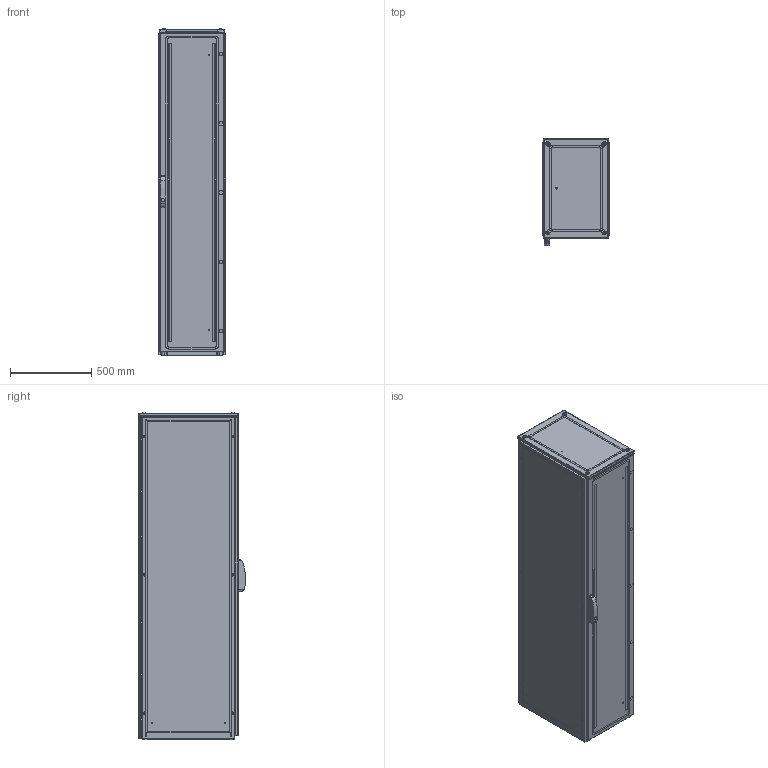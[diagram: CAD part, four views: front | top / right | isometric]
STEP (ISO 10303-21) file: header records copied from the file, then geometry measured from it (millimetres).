
FILE_DESCRIPTION(/* description */ ('STEP AP214'),/* implementation_level */ '2;1');
FILE_NAME(/* name */ 'ENUX042006PR-LOD350',/* time_stamp */ '2025-08-04T14:26:46+02:00',/* author */ ('License CC BY-ND 4.0'),/* organization */ ('CADENAS'),/* preprocessor_version */ 'ST-DEVELOPER v19.3',/* originating_system */ 'PARTsolutions',/* authorisation */ ' ');
FILE_SCHEMA (('AUTOMOTIVE_DESIGN {1 0 10303 214 3 1 1}'));
Length unit declared in the file: millimetre
Products named in the file (10): ENUX042006PR-LOD350; ENUX042006PR-LOD350_CON; ENUX042006PR-LOD350_floor1; ENUX042006PR-LOD350_floor2; Screw M12x30 architecture 350; ENUX042006PR-LOD350_side; ENUX042006PR-LOD350_top; ENUX042006PR-LOD350_back_door; ENUX042006PR-LOD350_door; ENUX042006PR-LOD350_handle
Assembly tree (16 placements, depth 2):
  ENUX042006PR-LOD350
    ENUX042006PR-LOD350_CON
    ENUX042006PR-LOD350_floor1  x2
    ENUX042006PR-LOD350_floor2  x3
    Screw M12x30 architecture 350  x4
    ENUX042006PR-LOD350_side  x2
    ENUX042006PR-LOD350_top
    ENUX042006PR-LOD350_back_door
    ENUX042006PR-LOD350_door
    ENUX042006PR-LOD350_handle
Bounding box: 412 x 657 x 2014.1 mm (x, y, z)
Volume: 16534873 mm3; surface area: 14246457.7 mm2
Topology: 16 solids, 16 shells, 1694 faces, 4735 edges, 3084 vertices
Faces by surface type: plane 858, cylinder 671, cone 77, torus 72, sphere 16
Full cylindrical faces by diameter (mm): 4.5 x108, 6 x14, 6.8 x8, 9 x9, 12 x16, 13 x4, 18 x1, 21 x4
Entity records: 43847 total; most frequent: CARTESIAN_POINT 7613, DIRECTION 7589, ORIENTED_EDGE 7128, EDGE_CURVE 3564, AXIS2_PLACEMENT_3D 2702, VERTEX_POINT 2485, LINE 2185, VECTOR 2185
